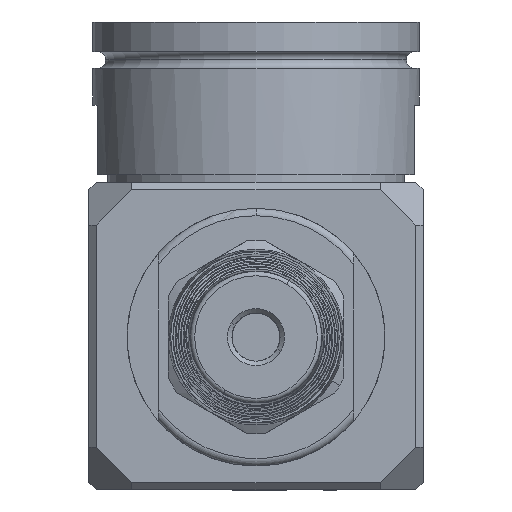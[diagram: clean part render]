
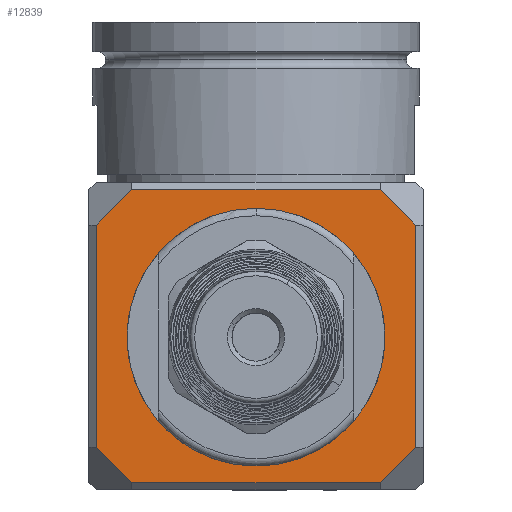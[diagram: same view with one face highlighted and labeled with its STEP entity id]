
A CAD part, front view. The second image highlights one B-rep face of the part: STEP entity #12839.
In plain terms, the highlighted planar face has unit normal (0, -1, 0).
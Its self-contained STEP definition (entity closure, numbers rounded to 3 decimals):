
#242 = LINE ( 'NONE', #10673, #9867 ) ;
#486 = DIRECTION ( 'NONE',  ( 0., -1., 0. ) ) ;
#592 = CARTESIAN_POINT ( 'NONE',  ( 0., -23.724, -51.892 ) ) ;
#751 = VECTOR ( 'NONE', #8563, 1000. ) ;
#858 = CARTESIAN_POINT ( 'NONE',  ( 0., -23.724, -34.963 ) ) ;
#1232 = EDGE_CURVE ( 'NONE', #7008, #6839, #11809, .T. ) ;
#1451 = ORIENTED_EDGE ( 'NONE', *, *, #1232, .T. ) ;
#1695 = LINE ( 'NONE', #7940, #1966 ) ;
#1736 = ORIENTED_EDGE ( 'NONE', *, *, #5890, .T. ) ;
#1966 = VECTOR ( 'NONE', #17064, 1000. ) ;
#2472 = VERTEX_POINT ( 'NONE', #8581 ) ;
#2500 = EDGE_LOOP ( 'NONE', ( #3324, #16805, #6819, #7946, #1736, #1451, #15983, #19006 ) ) ;
#2729 = LINE ( 'NONE', #16287, #15806 ) ;
#2749 = CARTESIAN_POINT ( 'NONE',  ( -21.933, -23.724, -50.101 ) ) ;
#2887 = CARTESIAN_POINT ( 'NONE',  ( 22.949, -23.724, -54.94 ) ) ;
#3324 = ORIENTED_EDGE ( 'NONE', *, *, #17264, .T. ) ;
#3640 = PLANE ( 'NONE',  #14363 ) ;
#3857 = DIRECTION ( 'NONE',  ( 0., 0., 1. ) ) ;
#3911 = CARTESIAN_POINT ( 'NONE',  ( -21.933, -23.724, -19.571 ) ) ;
#4368 = EDGE_CURVE ( 'NONE', #2472, #6994, #11924, .T. ) ;
#5060 = DIRECTION ( 'NONE',  ( 0., 0., -1. ) ) ;
#5420 = DIRECTION ( 'NONE',  ( 0., 1., 0. ) ) ;
#5630 = CARTESIAN_POINT ( 'NONE',  ( 27.127, -23.724, -24.765 ) ) ;
#5890 = EDGE_CURVE ( 'NONE', #10260, #7008, #2729, .T. ) ;
#6033 = CARTESIAN_POINT ( 'NONE',  ( -21.933, -23.724, -55.956 ) ) ;
#6379 = FACE_OUTER_BOUND ( 'NONE', #2500, .T. ) ;
#6819 = ORIENTED_EDGE ( 'NONE', *, *, #11596, .T. ) ;
#6839 = VERTEX_POINT ( 'NONE', #7956 ) ;
#6983 = EDGE_CURVE ( 'NONE', #16142, #19689, #18349, .T. ) ;
#6994 = VERTEX_POINT ( 'NONE', #3911 ) ;
#7008 = VERTEX_POINT ( 'NONE', #13205 ) ;
#7066 = DIRECTION ( 'NONE',  ( -0.707, 0., -0.707 ) ) ;
#7397 = CARTESIAN_POINT ( 'NONE',  ( 17.094, -23.724, -54.94 ) ) ;
#7428 = VECTOR ( 'NONE', #12716, 1000. ) ;
#7486 = CARTESIAN_POINT ( 'NONE',  ( 0., -23.724, -18.034 ) ) ;
#7614 = VERTEX_POINT ( 'NONE', #2749 ) ;
#7891 = CARTESIAN_POINT ( 'NONE',  ( -17.094, -23.724, -54.94 ) ) ;
#7940 = CARTESIAN_POINT ( 'NONE',  ( -22.949, -23.724, -14.732 ) ) ;
#7946 = ORIENTED_EDGE ( 'NONE', *, *, #18258, .T. ) ;
#7956 = CARTESIAN_POINT ( 'NONE',  ( 17.094, -23.724, -14.732 ) ) ;
#8563 = DIRECTION ( 'NONE',  ( 1., 0., 0. ) ) ;
#8581 = CARTESIAN_POINT ( 'NONE',  ( -17.094, -23.724, -14.732 ) ) ;
#9634 = AXIS2_PLACEMENT_3D ( 'NONE', #858, #5420, #16152 ) ;
#9867 = VECTOR ( 'NONE', #10973, 1000. ) ;
#9966 = DIRECTION ( 'NONE',  ( 0.707, 0., -0.707 ) ) ;
#10260 = VERTEX_POINT ( 'NONE', #13973 ) ;
#10583 = EDGE_CURVE ( 'NONE', #6839, #2472, #1695, .T. ) ;
#10673 = CARTESIAN_POINT ( 'NONE',  ( 10.071, -23.724, -61.963 ) ) ;
#10973 = DIRECTION ( 'NONE',  ( 0.707, 0., 0.707 ) ) ;
#11283 = DIRECTION ( 'NONE',  ( 0., 1., 0. ) ) ;
#11596 = EDGE_CURVE ( 'NONE', #12843, #12070, #19780, .T. ) ;
#11611 = CARTESIAN_POINT ( 'NONE',  ( 0., -23.724, -51.892 ) ) ;
#11809 = LINE ( 'NONE', #5630, #7428 ) ;
#11924 = LINE ( 'NONE', #19326, #17092 ) ;
#12070 = VERTEX_POINT ( 'NONE', #7397 ) ;
#12716 = DIRECTION ( 'NONE',  ( -0.707, 0., 0.707 ) ) ;
#12742 = FACE_BOUND ( 'NONE', #19417, .T. ) ;
#12839 = ADVANCED_FACE ( 'NONE', ( #12742, #6379 ), #3640, .T. ) ;
#12843 = VERTEX_POINT ( 'NONE', #7891 ) ;
#13101 = ORIENTED_EDGE ( 'NONE', *, *, #14520, .T. ) ;
#13205 = CARTESIAN_POINT ( 'NONE',  ( 21.933, -23.724, -19.571 ) ) ;
#13868 = EDGE_CURVE ( 'NONE', #7614, #12843, #18123, .T. ) ;
#13973 = CARTESIAN_POINT ( 'NONE',  ( 21.933, -23.724, -50.101 ) ) ;
#14226 = CARTESIAN_POINT ( 'NONE',  ( 0., -23.724, -34.963 ) ) ;
#14363 = AXIS2_PLACEMENT_3D ( 'NONE', #592, #486, #5060 ) ;
#14520 = EDGE_CURVE ( 'NONE', #19689, #16142, #16996, .T. ) ;
#15749 = VECTOR ( 'NONE', #18688, 1000. ) ;
#15806 = VECTOR ( 'NONE', #3857, 1000. ) ;
#15983 = ORIENTED_EDGE ( 'NONE', *, *, #10583, .T. ) ;
#16025 = AXIS2_PLACEMENT_3D ( 'NONE', #14226, #11283, #17468 ) ;
#16128 = CARTESIAN_POINT ( 'NONE',  ( -10.071, -23.724, -61.963 ) ) ;
#16142 = VERTEX_POINT ( 'NONE', #7486 ) ;
#16152 = DIRECTION ( 'NONE',  ( 0., 0., 1. ) ) ;
#16287 = CARTESIAN_POINT ( 'NONE',  ( 21.933, -23.724, -13.716 ) ) ;
#16805 = ORIENTED_EDGE ( 'NONE', *, *, #13868, .T. ) ;
#16996 = CIRCLE ( 'NONE', #16025, 16.929 ) ;
#17064 = DIRECTION ( 'NONE',  ( -1., 0., 0. ) ) ;
#17092 = VECTOR ( 'NONE', #7066, 1000. ) ;
#17264 = EDGE_CURVE ( 'NONE', #6994, #7614, #19903, .T. ) ;
#17309 = VECTOR ( 'NONE', #9966, 1000. ) ;
#17468 = DIRECTION ( 'NONE',  ( 0., 0., 1. ) ) ;
#18123 = LINE ( 'NONE', #16128, #17309 ) ;
#18258 = EDGE_CURVE ( 'NONE', #12070, #10260, #242, .T. ) ;
#18349 = CIRCLE ( 'NONE', #9634, 16.929 ) ;
#18688 = DIRECTION ( 'NONE',  ( 0., 0., -1. ) ) ;
#18810 = ORIENTED_EDGE ( 'NONE', *, *, #6983, .T. ) ;
#19006 = ORIENTED_EDGE ( 'NONE', *, *, #4368, .T. ) ;
#19326 = CARTESIAN_POINT ( 'NONE',  ( -27.127, -23.724, -24.765 ) ) ;
#19417 = EDGE_LOOP ( 'NONE', ( #18810, #13101 ) ) ;
#19689 = VERTEX_POINT ( 'NONE', #11611 ) ;
#19780 = LINE ( 'NONE', #2887, #751 ) ;
#19903 = LINE ( 'NONE', #6033, #15749 ) ;
